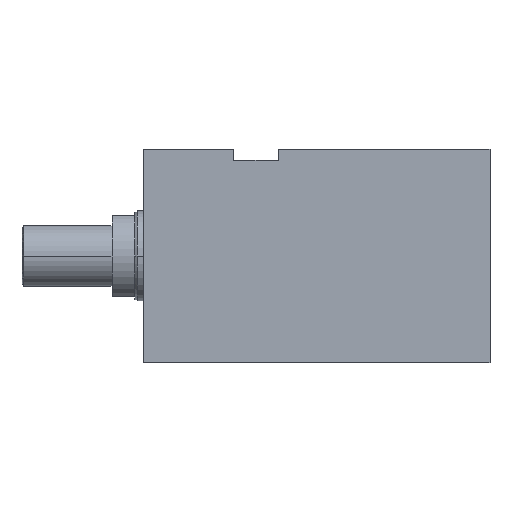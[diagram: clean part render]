
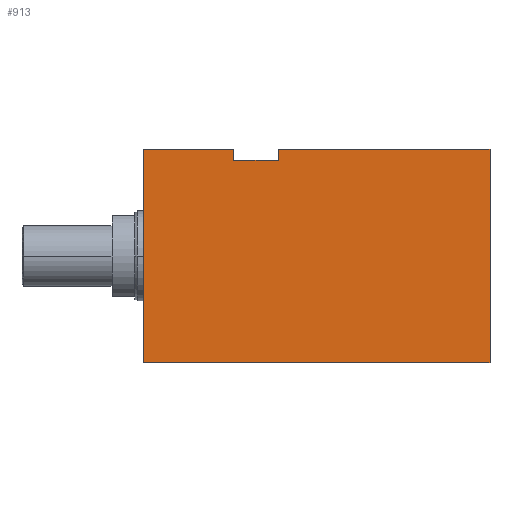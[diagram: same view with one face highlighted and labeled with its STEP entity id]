
A CAD part, left-side view. The second image highlights one B-rep face of the part: STEP entity #913.
In plain terms, the highlighted planar face has unit normal (-1, 0, 0).
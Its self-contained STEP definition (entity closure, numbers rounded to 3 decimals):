
#22 = DIRECTION ( 'NONE',  ( 0., 0., 1. ) ) ;
#193 = VECTOR ( 'NONE', #22, 1000. ) ;
#260 = CARTESIAN_POINT ( 'NONE',  ( -62.5, 154., -47.5 ) ) ;
#263 = ORIENTED_EDGE ( 'NONE', *, *, #1204, .F. ) ;
#289 = PLANE ( 'NONE',  #3131 ) ;
#378 = EDGE_CURVE ( 'NONE', #2490, #1508, #1479, .T. ) ;
#455 = VECTOR ( 'NONE', #1848, 1000. ) ;
#511 = VERTEX_POINT ( 'NONE', #1888 ) ;
#530 = CARTESIAN_POINT ( 'NONE',  ( -62.5, 91., -47.5 ) ) ;
#538 = ORIENTED_EDGE ( 'NONE', *, *, #2117, .T. ) ;
#543 = VERTEX_POINT ( 'NONE', #260 ) ;
#558 = DIRECTION ( 'NONE',  ( 0., 0., -1. ) ) ;
#568 = DIRECTION ( 'NONE',  ( 1., 0., 0. ) ) ;
#570 = DIRECTION ( 'NONE',  ( 0., -1., 0. ) ) ;
#589 = DIRECTION ( 'NONE',  ( 0., 0., 1. ) ) ;
#598 = CARTESIAN_POINT ( 'NONE',  ( -62.5, 114., 42.5 ) ) ;
#620 = LINE ( 'NONE', #2560, #455 ) ;
#742 = VERTEX_POINT ( 'NONE', #794 ) ;
#778 = DIRECTION ( 'NONE',  ( 0., -1., 0. ) ) ;
#788 = ORIENTED_EDGE ( 'NONE', *, *, #1928, .T. ) ;
#794 = CARTESIAN_POINT ( 'NONE',  ( -62.5, 94., 47.5 ) ) ;
#856 = LINE ( 'NONE', #2259, #2142 ) ;
#865 = LINE ( 'NONE', #1012, #193 ) ;
#911 = CARTESIAN_POINT ( 'NONE',  ( -62.5, 0., 47.5 ) ) ;
#913 = ADVANCED_FACE ( 'NONE', ( #2896 ), #289, .F. ) ;
#914 = EDGE_CURVE ( 'NONE', #3075, #2684, #2256, .T. ) ;
#946 = CARTESIAN_POINT ( 'NONE',  ( -62.5, 0., -47.5 ) ) ;
#979 = VECTOR ( 'NONE', #1047, 1000. ) ;
#1012 = CARTESIAN_POINT ( 'NONE',  ( -62.5, 94., 42.5 ) ) ;
#1047 = DIRECTION ( 'NONE',  ( 0., -1., 0. ) ) ;
#1204 = EDGE_CURVE ( 'NONE', #511, #742, #865, .T. ) ;
#1266 = EDGE_CURVE ( 'NONE', #742, #1508, #1964, .T. ) ;
#1318 = CARTESIAN_POINT ( 'NONE',  ( -62.5, 91., 47.5 ) ) ;
#1323 = ORIENTED_EDGE ( 'NONE', *, *, #1266, .F. ) ;
#1331 = VECTOR ( 'NONE', #778, 1000. ) ;
#1390 = LINE ( 'NONE', #598, #1953 ) ;
#1404 = VECTOR ( 'NONE', #2387, 1000. ) ;
#1479 = LINE ( 'NONE', #946, #1404 ) ;
#1508 = VERTEX_POINT ( 'NONE', #911 ) ;
#1521 = CARTESIAN_POINT ( 'NONE',  ( -62.5, 91., 47.5 ) ) ;
#1534 = VERTEX_POINT ( 'NONE', #1890 ) ;
#1848 = DIRECTION ( 'NONE',  ( 0., 0., 1. ) ) ;
#1888 = CARTESIAN_POINT ( 'NONE',  ( -62.5, 94., 42.5 ) ) ;
#1890 = CARTESIAN_POINT ( 'NONE',  ( -62.5, 114., 42.5 ) ) ;
#1918 = VECTOR ( 'NONE', #589, 1000. ) ;
#1928 = EDGE_CURVE ( 'NONE', #543, #2490, #856, .T. ) ;
#1953 = VECTOR ( 'NONE', #2771, 1000. ) ;
#1958 = CARTESIAN_POINT ( 'NONE',  ( -62.5, 114., 47.5 ) ) ;
#1964 = LINE ( 'NONE', #1521, #1331 ) ;
#2015 = EDGE_CURVE ( 'NONE', #543, #3075, #2541, .T. ) ;
#2117 = EDGE_CURVE ( 'NONE', #1534, #2684, #620, .T. ) ;
#2142 = VECTOR ( 'NONE', #570, 1000. ) ;
#2229 = CARTESIAN_POINT ( 'NONE',  ( -62.5, 0., -47.5 ) ) ;
#2256 = LINE ( 'NONE', #1318, #979 ) ;
#2259 = CARTESIAN_POINT ( 'NONE',  ( -62.5, 91., -47.5 ) ) ;
#2275 = CARTESIAN_POINT ( 'NONE',  ( -62.5, 154., -47.5 ) ) ;
#2340 = EDGE_LOOP ( 'NONE', ( #1323, #263, #2610, #538, #2504, #2874, #788, #2702 ) ) ;
#2387 = DIRECTION ( 'NONE',  ( 0., 0., 1. ) ) ;
#2490 = VERTEX_POINT ( 'NONE', #2229 ) ;
#2504 = ORIENTED_EDGE ( 'NONE', *, *, #914, .F. ) ;
#2541 = LINE ( 'NONE', #2275, #1918 ) ;
#2560 = CARTESIAN_POINT ( 'NONE',  ( -62.5, 114., 42.5 ) ) ;
#2610 = ORIENTED_EDGE ( 'NONE', *, *, #2977, .F. ) ;
#2684 = VERTEX_POINT ( 'NONE', #1958 ) ;
#2702 = ORIENTED_EDGE ( 'NONE', *, *, #378, .T. ) ;
#2771 = DIRECTION ( 'NONE',  ( 0., -1., 0. ) ) ;
#2874 = ORIENTED_EDGE ( 'NONE', *, *, #2015, .F. ) ;
#2896 = FACE_OUTER_BOUND ( 'NONE', #2340, .T. ) ;
#2977 = EDGE_CURVE ( 'NONE', #1534, #511, #1390, .T. ) ;
#3054 = CARTESIAN_POINT ( 'NONE',  ( -62.5, 154., 47.5 ) ) ;
#3075 = VERTEX_POINT ( 'NONE', #3054 ) ;
#3131 = AXIS2_PLACEMENT_3D ( 'NONE', #530, #568, #558 ) ;
